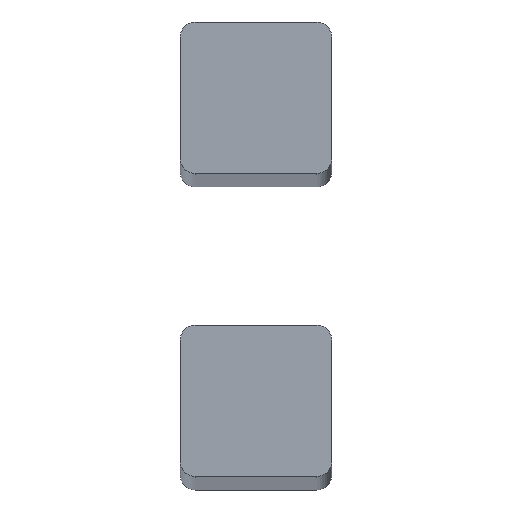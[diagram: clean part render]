
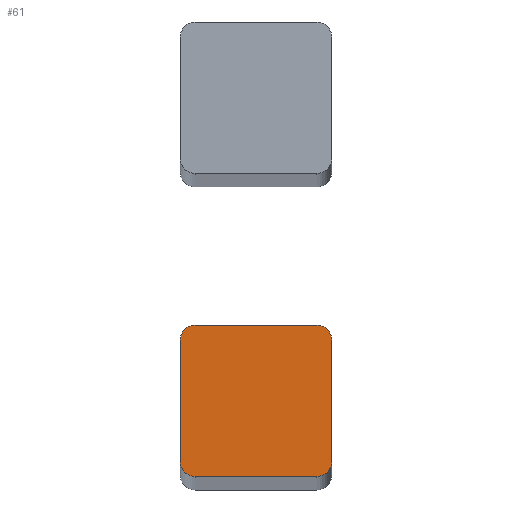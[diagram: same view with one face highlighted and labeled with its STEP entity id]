
A CAD part, top view. The second image highlights one B-rep face of the part: STEP entity #61.
In plain terms, the highlighted planar face has unit normal (0, 0, 1).
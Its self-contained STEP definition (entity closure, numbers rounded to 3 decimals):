
#8 = LINE ( 'NONE', #541, #476 ) ;
#14 = VERTEX_POINT ( 'NONE', #396 ) ;
#23 = CARTESIAN_POINT ( 'NONE',  ( -670., -26.049, 3687.5 ) ) ;
#36 = VERTEX_POINT ( 'NONE', #270 ) ;
#61 = ADVANCED_FACE ( 'NONE', ( #113 ), #563, .F. ) ;
#71 = CARTESIAN_POINT ( 'NONE',  ( -695., -26.049, 3687.5 ) ) ;
#78 = DIRECTION ( 'NONE',  ( -1., 0., 0. ) ) ;
#83 = EDGE_LOOP ( 'NONE', ( #551, #572, #306, #589, #521, #621, #400, #262 ) ) ;
#99 = DIRECTION ( 'NONE',  ( -1., 0., 0. ) ) ;
#103 = CARTESIAN_POINT ( 'NONE',  ( -692.5, -24.541, 3687.5 ) ) ;
#113 = FACE_OUTER_BOUND ( 'NONE', #83, .T. ) ;
#122 = DIRECTION ( 'NONE',  ( 0., 0., -1. ) ) ;
#132 = EDGE_CURVE ( 'NONE', #36, #484, #371, .T. ) ;
#142 = AXIS2_PLACEMENT_3D ( 'NONE', #219, #168, #602 ) ;
#151 = VERTEX_POINT ( 'NONE', #611 ) ;
#152 = EDGE_CURVE ( 'NONE', #452, #14, #516, .T. ) ;
#157 = CARTESIAN_POINT ( 'NONE',  ( -692.5, -47.041, 3687.5 ) ) ;
#158 = DIRECTION ( 'NONE',  ( 0., -1., 0. ) ) ;
#167 = DIRECTION ( 'NONE',  ( 0., 0., -1. ) ) ;
#168 = DIRECTION ( 'NONE',  ( 0., 0., -1. ) ) ;
#171 = VECTOR ( 'NONE', #609, 1000. ) ;
#175 = AXIS2_PLACEMENT_3D ( 'NONE', #103, #203, #489 ) ;
#178 = EDGE_CURVE ( 'NONE', #184, #36, #293, .T. ) ;
#184 = VERTEX_POINT ( 'NONE', #157 ) ;
#203 = DIRECTION ( 'NONE',  ( 0., 0., -1. ) ) ;
#219 = CARTESIAN_POINT ( 'NONE',  ( -692.5, -44.541, 3687.5 ) ) ;
#221 = VERTEX_POINT ( 'NONE', #622 ) ;
#230 = CIRCLE ( 'NONE', #175, 2.5 ) ;
#254 = CARTESIAN_POINT ( 'NONE',  ( -672.5, -24.541, 3687.5 ) ) ;
#257 = AXIS2_PLACEMENT_3D ( 'NONE', #304, #122, #78 ) ;
#260 = CARTESIAN_POINT ( 'NONE',  ( -695., -24.541, 3687.5 ) ) ;
#261 = DIRECTION ( 'NONE',  ( 0., 1., 0. ) ) ;
#262 = ORIENTED_EDGE ( 'NONE', *, *, #401, .F. ) ;
#270 = CARTESIAN_POINT ( 'NONE',  ( -695., -44.541, 3687.5 ) ) ;
#276 = CIRCLE ( 'NONE', #353, 2.5 ) ;
#293 = CIRCLE ( 'NONE', #142, 2.5 ) ;
#297 = DIRECTION ( 'NONE',  ( 0., 0., -1. ) ) ;
#304 = CARTESIAN_POINT ( 'NONE',  ( -682.5, -34.541, 3687.5 ) ) ;
#306 = ORIENTED_EDGE ( 'NONE', *, *, #499, .F. ) ;
#309 = DIRECTION ( 'NONE',  ( 0., -1., 0. ) ) ;
#311 = CARTESIAN_POINT ( 'NONE',  ( -692.351, -22.041, 3687.5 ) ) ;
#353 = AXIS2_PLACEMENT_3D ( 'NONE', #368, #167, #309 ) ;
#363 = CARTESIAN_POINT ( 'NONE',  ( -692.5, -22.041, 3687.5 ) ) ;
#368 = CARTESIAN_POINT ( 'NONE',  ( -672.5, -44.541, 3687.5 ) ) ;
#371 = LINE ( 'NONE', #71, #597 ) ;
#388 = CIRCLE ( 'NONE', #504, 2.5 ) ;
#396 = CARTESIAN_POINT ( 'NONE',  ( -672.5, -22.041, 3687.5 ) ) ;
#400 = ORIENTED_EDGE ( 'NONE', *, *, #178, .F. ) ;
#401 = EDGE_CURVE ( 'NONE', #428, #184, #8, .T. ) ;
#404 = DIRECTION ( 'NONE',  ( 0., -1., 0. ) ) ;
#408 = VECTOR ( 'NONE', #158, 1000. ) ;
#409 = EDGE_CURVE ( 'NONE', #484, #452, #230, .T. ) ;
#428 = VERTEX_POINT ( 'NONE', #443 ) ;
#443 = CARTESIAN_POINT ( 'NONE',  ( -672.5, -47.041, 3687.5 ) ) ;
#452 = VERTEX_POINT ( 'NONE', #363 ) ;
#462 = LINE ( 'NONE', #23, #408 ) ;
#470 = EDGE_CURVE ( 'NONE', #221, #428, #276, .T. ) ;
#476 = VECTOR ( 'NONE', #99, 1000. ) ;
#484 = VERTEX_POINT ( 'NONE', #260 ) ;
#489 = DIRECTION ( 'NONE',  ( 0., -1., 0. ) ) ;
#499 = EDGE_CURVE ( 'NONE', #14, #151, #388, .T. ) ;
#504 = AXIS2_PLACEMENT_3D ( 'NONE', #254, #297, #404 ) ;
#507 = EDGE_CURVE ( 'NONE', #151, #221, #462, .T. ) ;
#516 = LINE ( 'NONE', #311, #171 ) ;
#521 = ORIENTED_EDGE ( 'NONE', *, *, #409, .F. ) ;
#541 = CARTESIAN_POINT ( 'NONE',  ( -692.351, -47.041, 3687.5 ) ) ;
#551 = ORIENTED_EDGE ( 'NONE', *, *, #470, .F. ) ;
#563 = PLANE ( 'NONE',  #257 ) ;
#572 = ORIENTED_EDGE ( 'NONE', *, *, #507, .F. ) ;
#589 = ORIENTED_EDGE ( 'NONE', *, *, #152, .F. ) ;
#597 = VECTOR ( 'NONE', #261, 1000. ) ;
#602 = DIRECTION ( 'NONE',  ( 0., -1., 0. ) ) ;
#609 = DIRECTION ( 'NONE',  ( 1., 0., 0. ) ) ;
#611 = CARTESIAN_POINT ( 'NONE',  ( -670., -24.541, 3687.5 ) ) ;
#621 = ORIENTED_EDGE ( 'NONE', *, *, #132, .F. ) ;
#622 = CARTESIAN_POINT ( 'NONE',  ( -670., -44.541, 3687.5 ) ) ;
